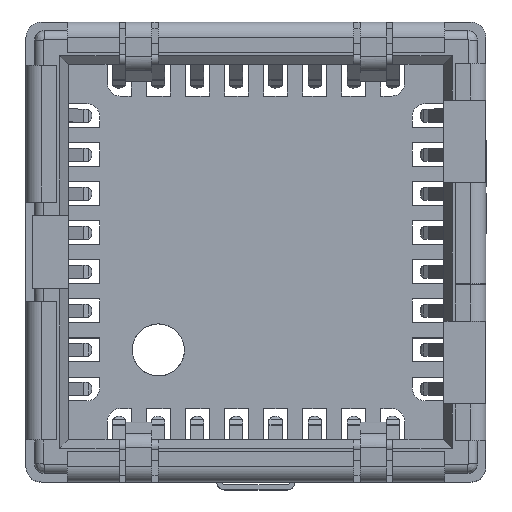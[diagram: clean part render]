
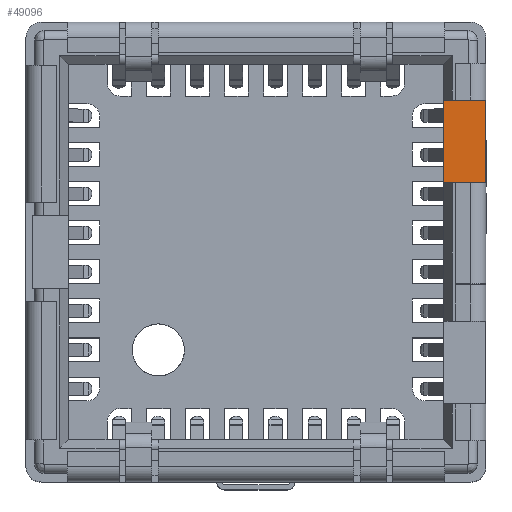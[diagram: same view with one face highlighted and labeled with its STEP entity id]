
A CAD part, top view. The second image highlights one B-rep face of the part: STEP entity #49096.
In plain terms, the highlighted planar face has unit normal (0, 0, 1).
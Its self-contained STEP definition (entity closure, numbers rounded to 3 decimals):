
#1783 = ORIENTED_EDGE ( 'NONE', *, *, #13151, .T. ) ;
#2352 = B_SPLINE_CURVE_WITH_KNOTS ( 'NONE', 3,
 ( #3283, #25390, #47459, #9052 ),
 .UNSPECIFIED., .F., .F.,
 ( 4, 4 ),
 ( 0., 1. ),
 .UNSPECIFIED. ) ;
#3283 = CARTESIAN_POINT ( 'NONE',  ( 5.3, 1.6, 0.85 ) ) ;
#9052 = CARTESIAN_POINT ( 'NONE',  ( 5.3, 3.5, 0.85 ) ) ;
#9584 = CARTESIAN_POINT ( 'NONE',  ( 5.3, 1.6, 0.85 ) ) ;
#13151 = EDGE_CURVE ( 'NONE', #68475, #53162, #18451, .T. ) ;
#16695 = EDGE_CURVE ( 'NONE', #53162, #44790, #2352, .T. ) ;
#16753 = B_SPLINE_CURVE_WITH_KNOTS ( 'NONE', 3,
 ( #35793, #52817, #53166, #57920 ),
 .UNSPECIFIED., .F., .F.,
 ( 4, 4 ),
 ( 0., 1. ),
 .UNSPECIFIED. ) ;
#18451 = B_SPLINE_CURVE_WITH_KNOTS ( 'NONE', 3,
 ( #25575, #59316, #42604, #9584 ),
 .UNSPECIFIED., .F., .F.,
 ( 4, 4 ),
 ( 0., 1. ),
 .UNSPECIFIED. ) ;
#19453 = ORIENTED_EDGE ( 'NONE', *, *, #24870, .T. ) ;
#20288 = FACE_OUTER_BOUND ( 'NONE', #32942, .T. ) ;
#23122 = ORIENTED_EDGE ( 'NONE', *, *, #54124, .T. ) ;
#24870 = EDGE_CURVE ( 'NONE', #60429, #68475, #16753, .T. ) ;
#25390 = CARTESIAN_POINT ( 'NONE',  ( 5.3, 2.233, 0.85 ) ) ;
#25575 = CARTESIAN_POINT ( 'NONE',  ( 4.325, 1.6, 0.85 ) ) ;
#27332 = CARTESIAN_POINT ( 'NONE',  ( 4.975, 3.5, 0.85 ) ) ;
#32727 = CARTESIAN_POINT ( 'NONE',  ( 4.65, 3.5, 0.85 ) ) ;
#32942 = EDGE_LOOP ( 'NONE', ( #57805, #23122, #19453, #1783 ) ) ;
#35790 = DIRECTION ( 'NONE',  ( 0., 0., 1. ) ) ;
#35793 = CARTESIAN_POINT ( 'NONE',  ( 4.325, 3.5, 0.85 ) ) ;
#42604 = CARTESIAN_POINT ( 'NONE',  ( 4.975, 1.6, 0.85 ) ) ;
#44790 = VERTEX_POINT ( 'NONE', #69451 ) ;
#47459 = CARTESIAN_POINT ( 'NONE',  ( 5.3, 2.867, 0.85 ) ) ;
#47654 = CARTESIAN_POINT ( 'NONE',  ( 4.325, 1.6, 0.85 ) ) ;
#48182 = PLANE ( 'NONE',  #55634 ) ;
#49096 = ADVANCED_FACE ( 'NONE', ( #20288 ), #48182, .T. ) ;
#52817 = CARTESIAN_POINT ( 'NONE',  ( 4.325, 2.867, 0.85 ) ) ;
#53162 = VERTEX_POINT ( 'NONE', #60092 ) ;
#53166 = CARTESIAN_POINT ( 'NONE',  ( 4.325, 2.233, 0.85 ) ) ;
#54124 = EDGE_CURVE ( 'NONE', #44790, #60429, #60218, .T. ) ;
#55634 = AXIS2_PLACEMENT_3D ( 'NONE', #68836, #35790, #64114 ) ;
#57805 = ORIENTED_EDGE ( 'NONE', *, *, #16695, .T. ) ;
#57920 = CARTESIAN_POINT ( 'NONE',  ( 4.325, 1.6, 0.85 ) ) ;
#59316 = CARTESIAN_POINT ( 'NONE',  ( 4.65, 1.6, 0.85 ) ) ;
#60017 = CARTESIAN_POINT ( 'NONE',  ( 4.325, 3.5, 0.85 ) ) ;
#60092 = CARTESIAN_POINT ( 'NONE',  ( 5.3, 1.6, 0.85 ) ) ;
#60218 = B_SPLINE_CURVE_WITH_KNOTS ( 'NONE', 3,
 ( #66904, #27332, #32727, #60017 ),
 .UNSPECIFIED., .F., .F.,
 ( 4, 4 ),
 ( 0., 1. ),
 .UNSPECIFIED. ) ;
#60429 = VERTEX_POINT ( 'NONE', #67443 ) ;
#64114 = DIRECTION ( 'NONE',  ( 1., 0., 0. ) ) ;
#66904 = CARTESIAN_POINT ( 'NONE',  ( 5.3, 3.5, 0.85 ) ) ;
#67443 = CARTESIAN_POINT ( 'NONE',  ( 4.325, 3.5, 0.85 ) ) ;
#68475 = VERTEX_POINT ( 'NONE', #47654 ) ;
#68836 = CARTESIAN_POINT ( 'NONE',  ( 0., 0., 0.85 ) ) ;
#69451 = CARTESIAN_POINT ( 'NONE',  ( 5.3, 3.5, 0.85 ) ) ;
